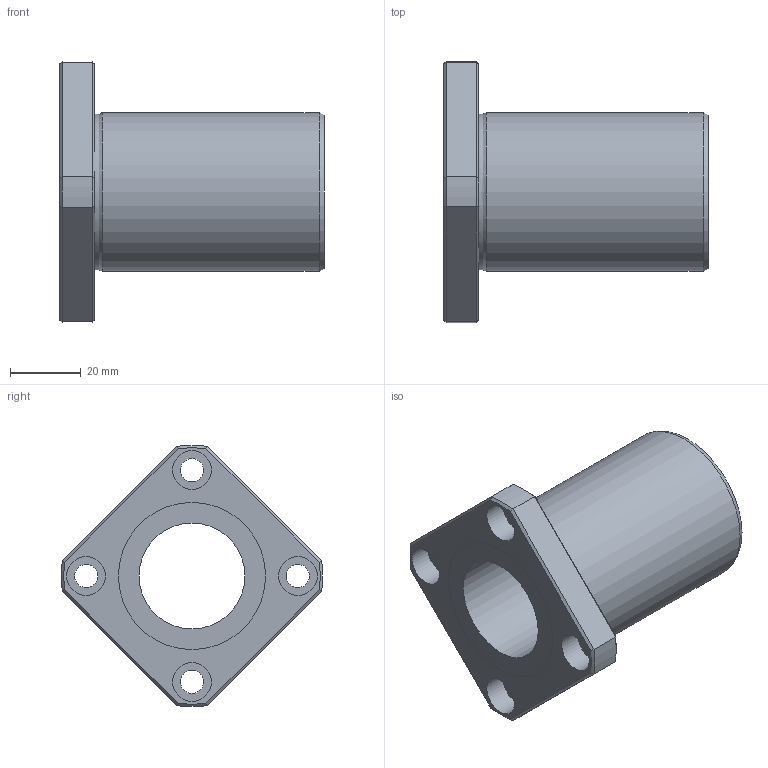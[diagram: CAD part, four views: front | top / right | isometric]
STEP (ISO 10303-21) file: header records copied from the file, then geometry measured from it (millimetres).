
FILE_DESCRIPTION((''),'2;1');
FILE_NAME('D:\製品 (図面)\カタログ用3D\メンテナンスフリー関連\STEP形式\LFK-MF\LFK30MF.stp','2010-06-01T15:52:56',('Tsuchiya'),(''),'Autodesk Inventor 10','Autodesk Inventor 10','');
FILE_SCHEMA(('AUTOMOTIVE_DESIGN { 1 0 10303 214 1 1 1 1 }'));
Length unit declared in the file: millimetre
Products named in the file (1): LFK30MF
Bounding box: 75 x 73.95 x 73.95 mm (x, y, z)
Volume: 79972.1 mm3; surface area: 24345.9 mm2
Topology: 1 solids, 1 shells, 47 faces, 96 edges, 58 vertices
Faces by surface type: plane 21, cylinder 16, cone 8, torus 1, bspline 1
Full cylindrical faces by diameter (mm): 6.6 x4, 11 x4, 30 x1, 41.7 x2, 45 x1
Entity records: 1275 total; most frequent: CARTESIAN_POINT 298, DIRECTION 202, ORIENTED_EDGE 164, AXIS2_PLACEMENT_3D 89, EDGE_CURVE 82, EDGE_LOOP 78, VERTEX_POINT 58, FACE_OUTER_BOUND 47
